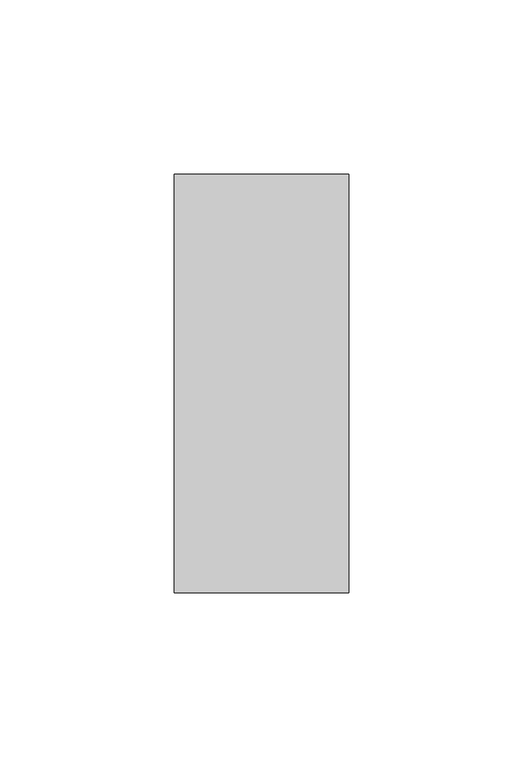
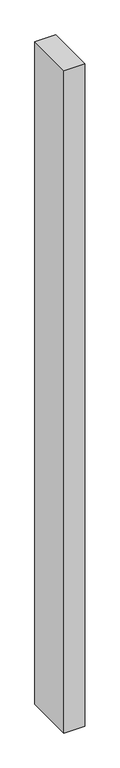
"""IFC4 building model written with IfcOpenShell, lengths in millimetres: member geometry, Прямоугольный импост : 50х120 мм."""

from ifc_helpers import new_model, si_unit, frame, origin, place, context, project, spatial, polyline, outline, extrude, source, transform, mapped, element, save


def member_764e5df5(model_context):
    return source(origin(), model_context, "Body", "SweptSolid", [
        extrude(outline(polyline([(0.0, 60.0), (0.0, -60.0), (-50.0, -60.0), (-50.0, 60.0), (0.0, 60.0)])), frame((0.0, 0.0, -1674.9369238), z_axis=(0.0, 0.0, 1.0), x_axis=(1.0, 0.0, 0.0)), (0.0, 0.0, 1.0), 1674.9369238),
    ])


if __name__ == "__main__":
    model = new_model("IFC4")
    model_context = context("Model", 3, world=origin())
    ifc_project = project(units=[si_unit("LENGTHUNIT", "METRE", prefix="MILLI")], contexts=[model_context])
    site = spatial("IfcSite", under=ifc_project)
    building = spatial("IfcBuilding", under=site)
    placement = place(None, origin())
    member_shape = member_764e5df5(model_context)
    element("IfcMember", 1, ObjectType="Прямоугольный импост : 50х120 мм", at=placement, inside=building, context=model_context, shape_type="MappedRepresentation", body=[
        mapped(member_shape, transform((0.0, 0.0, 0.0), x_axis=(1.0, 0.0, 0.0), y_axis=(0.0, 1.0, 0.0), z_axis=(0.0, 0.0, 1.0))),
    ])
    save(model, "model.ifc")
